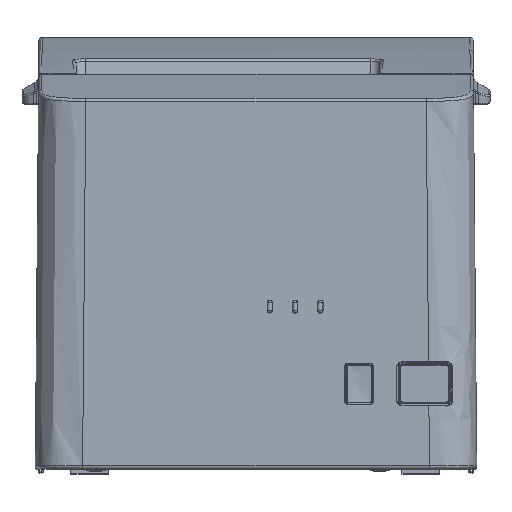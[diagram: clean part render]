
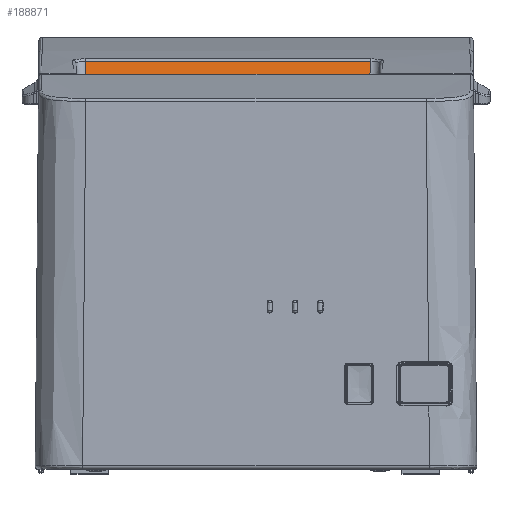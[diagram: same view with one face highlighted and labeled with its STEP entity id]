
A CAD part, top view. The second image highlights one B-rep face of the part: STEP entity #188871.
In plain terms, the highlighted planar face has unit normal (0, 0.174, 0.985).
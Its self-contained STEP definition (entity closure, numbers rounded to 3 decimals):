
#165276=CARTESIAN_POINT('',(-44.372,115.526,
-85.096));
#165346=DIRECTION('',(-1.,0.,0.));
#165347=VECTOR('',#165346,88.744);
#165348=CARTESIAN_POINT('',(44.372,115.526,
-85.096));
#165349=LINE('',#165348,#165347);
#165350=DIRECTION('',(0.069,-0.982,0.173));
#165351=VECTOR('',#165350,13.587);
#165352=CARTESIAN_POINT('',(-45.306,128.876,
-87.45));
#165353=LINE('',#165352,#165351);
#165354=DIRECTION('',(1.,0.,0.));
#165355=VECTOR('',#165354,90.611);
#165356=CARTESIAN_POINT('',(-45.306,128.876,
-87.45));
#165357=LINE('',#165356,#165355);
#165358=DIRECTION('',(0.069,0.982,-0.173));
#165359=VECTOR('',#165358,13.587);
#165360=CARTESIAN_POINT('',(44.372,115.526,
-85.096));
#165361=LINE('',#165360,#165359);
#165391=CARTESIAN_POINT('',(45.306,128.876,
-87.45));
#172450=VERTEX_POINT('',#165391);
#172454=CARTESIAN_POINT('',(-45.306,128.876,
-87.45));
#172455=VERTEX_POINT('',#172454);
#172715=VERTEX_POINT('',#165276);
#172717=CARTESIAN_POINT('',(44.372,115.526,
-85.096));
#172718=VERTEX_POINT('',#172717);
#188859=CARTESIAN_POINT('',(-47.6,114.7,-84.95));
#188860=DIRECTION('',(0.,-0.174,-0.985));
#188861=DIRECTION('',(0.,0.985,-0.174));
#188862=AXIS2_PLACEMENT_3D('',#188859,#188860,#188861);
#188863=PLANE('',#188862);
#188864=ORIENTED_EDGE('',*,*,#188849,.T.);
#188865=ORIENTED_EDGE('',*,*,#188708,.F.);
#188866=ORIENTED_EDGE('',*,*,#175998,.T.);
#188868=ORIENTED_EDGE('',*,*,#188867,.F.);
#188869=EDGE_LOOP('',(#188864,#188865,#188866,#188868));
#188870=FACE_OUTER_BOUND('',#188869,.F.);
#175998=EDGE_CURVE('',#172455,#172450,#165357,.T.);
#188708=EDGE_CURVE('',#172455,#172715,#165353,.T.);
#188849=EDGE_CURVE('',#172718,#172715,#165349,.T.);
#188867=EDGE_CURVE('',#172718,#172450,#165361,.T.);
#188871=ADVANCED_FACE('',(#188870),#188863,.F.);
